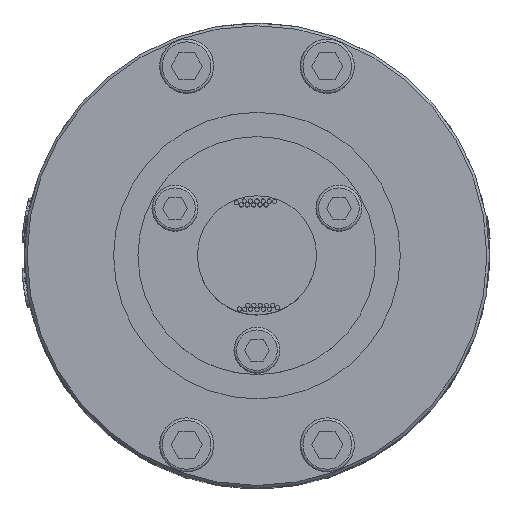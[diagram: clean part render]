
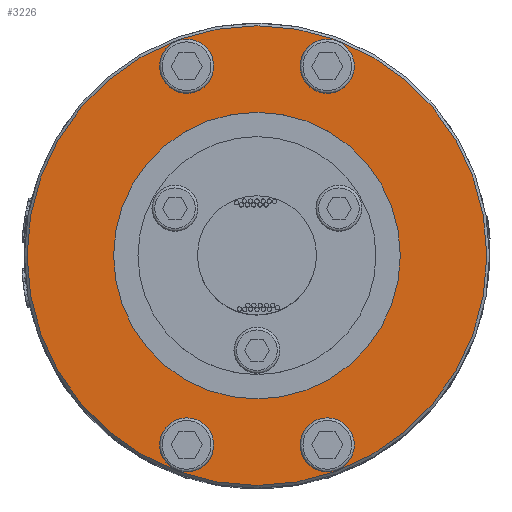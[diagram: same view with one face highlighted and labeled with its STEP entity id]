
A CAD part, top view. The second image highlights one B-rep face of the part: STEP entity #3226.
In plain terms, the highlighted planar face has unit normal (0, 0, 1).
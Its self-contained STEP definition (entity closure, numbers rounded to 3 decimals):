
#659=FACE_BOUND('',#6659,.T.);
#660=FACE_BOUND('',#6660,.T.);
#661=FACE_BOUND('',#6661,.T.);
#662=FACE_BOUND('',#6662,.T.);
#663=FACE_BOUND('',#6663,.T.);
#664=FACE_BOUND('',#6664,.T.);
#890=CIRCLE('',#25975,5.);
#893=CIRCLE('',#25988,5.);
#896=CIRCLE('',#26001,5.);
#899=CIRCLE('',#26014,5.);
#962=CIRCLE('',#26161,26.5);
#964=CIRCLE('',#26165,42.5);
#3226=ADVANCED_FACE('',(#659,#660,#661,#662,#663,#664),#3742,.T.);
#3742=PLANE('',#26169);
#6659=EDGE_LOOP('',(#15653));
#6660=EDGE_LOOP('',(#15654));
#6661=EDGE_LOOP('',(#15655));
#6662=EDGE_LOOP('',(#15656));
#6663=EDGE_LOOP('',(#15657));
#6664=EDGE_LOOP('',(#15658));
#15653=ORIENTED_EDGE('',*,*,#21582,.F.);
#15654=ORIENTED_EDGE('',*,*,#21603,.F.);
#15655=ORIENTED_EDGE('',*,*,#21624,.F.);
#15656=ORIENTED_EDGE('',*,*,#21645,.F.);
#15657=ORIENTED_EDGE('',*,*,#21762,.T.);
#15658=ORIENTED_EDGE('',*,*,#21764,.T.);
#18018=VERTEX_POINT('',#52290);
#18033=VERTEX_POINT('',#52336);
#18048=VERTEX_POINT('',#52382);
#18063=VERTEX_POINT('',#52428);
#18162=VERTEX_POINT('',#52728);
#18164=VERTEX_POINT('',#52734);
#21582=EDGE_CURVE('',#18018,#18018,#890,.T.);
#21603=EDGE_CURVE('',#18033,#18033,#893,.T.);
#21624=EDGE_CURVE('',#18048,#18048,#896,.T.);
#21645=EDGE_CURVE('',#18063,#18063,#899,.T.);
#21762=EDGE_CURVE('',#18162,#18162,#962,.T.);
#21764=EDGE_CURVE('',#18164,#18164,#964,.T.);
#25975=AXIS2_PLACEMENT_3D('',#52289,#28893,#28894);
#25988=AXIS2_PLACEMENT_3D('',#52335,#28937,#28938);
#26001=AXIS2_PLACEMENT_3D('',#52381,#28981,#28982);
#26014=AXIS2_PLACEMENT_3D('',#52427,#29025,#29026);
#26161=AXIS2_PLACEMENT_3D('',#52727,#29373,#29374);
#26165=AXIS2_PLACEMENT_3D('',#52733,#29381,#29382);
#26169=AXIS2_PLACEMENT_3D('',#52739,#29389,#29390);
#28893=DIRECTION('',(0.,0.,1.));
#28894=DIRECTION('',(-1.,0.,0.));
#28937=DIRECTION('',(0.,0.,1.));
#28938=DIRECTION('',(-1.,0.,0.));
#28981=DIRECTION('',(0.,0.,1.));
#28982=DIRECTION('',(-1.,0.,0.));
#29025=DIRECTION('',(0.,0.,1.));
#29026=DIRECTION('',(-1.,0.,0.));
#29373=DIRECTION('',(0.,0.,-1.));
#29374=DIRECTION('',(1.,0.,0.));
#29381=DIRECTION('',(0.,0.,1.));
#29382=DIRECTION('',(1.,0.,0.));
#29389=DIRECTION('',(0.,0.,1.));
#29390=DIRECTION('',(1.,0.,0.));
#52289=CARTESIAN_POINT('',(13.,35.,111.));
#52290=CARTESIAN_POINT('',(8.,35.,111.));
#52335=CARTESIAN_POINT('',(-13.,35.,111.));
#52336=CARTESIAN_POINT('',(-18.,35.,111.));
#52381=CARTESIAN_POINT('',(-13.,-35.,111.));
#52382=CARTESIAN_POINT('',(-18.,-35.,111.));
#52427=CARTESIAN_POINT('',(13.,-35.,111.));
#52428=CARTESIAN_POINT('',(8.,-35.,111.));
#52727=CARTESIAN_POINT('',(0.,0.,111.));
#52728=CARTESIAN_POINT('',(26.5,0.,111.));
#52733=CARTESIAN_POINT('',(0.,0.,111.));
#52734=CARTESIAN_POINT('',(42.5,0.,111.));
#52739=CARTESIAN_POINT('',(0.,0.,111.));
